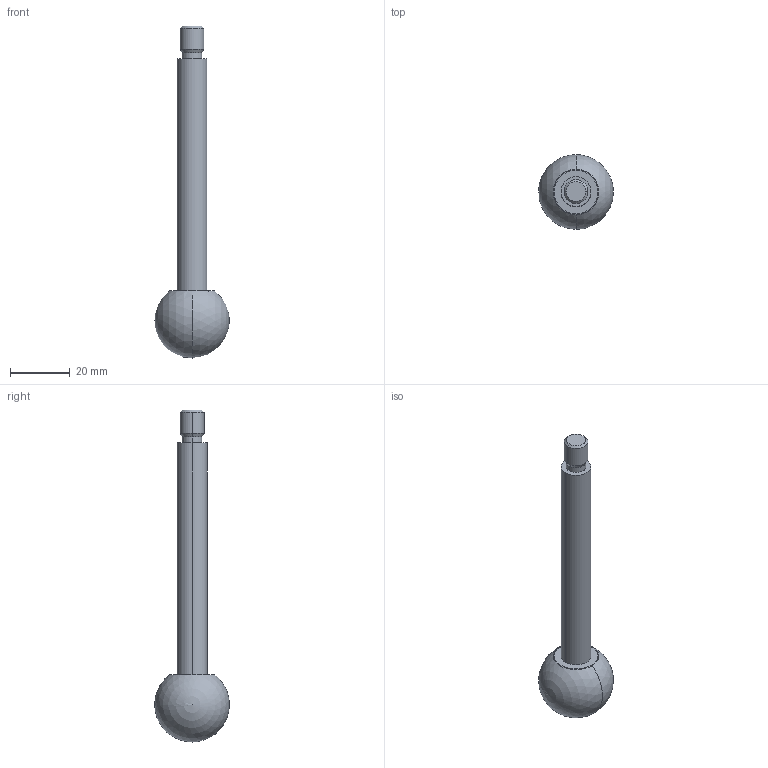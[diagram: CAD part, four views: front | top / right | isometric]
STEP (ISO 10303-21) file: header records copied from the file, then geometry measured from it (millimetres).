
FILE_DESCRIPTION (( 'STEP AP214' ), '1' );
FILE_NAME ('310-10-100-A-ZB.step', '2023-08-07T10:01:33', ( '' ), ( '' ), 'SwSTEP 2.0', 'SolidWorks 2022', '' );
FILE_SCHEMA (( 'AUTOMOTIVE_DESIGN' ));
Length unit declared in the file: millimetre
Products named in the file (1): 310-10-100-A-ZB
Bounding box: 25 x 24.96 x 111 mm (x, y, z)
Volume: 14544 mm3; surface area: 4652.5 mm2
Topology: 1 solids, 1 shells, 17 faces, 39 edges, 24 vertices
Faces by surface type: cylinder 6, cone 4, plane 3, torus 2, sphere 2
Entity records: 541 total; most frequent: DIRECTION 94, CARTESIAN_POINT 73, ORIENTED_EDGE 68, AXIS2_PLACEMENT_3D 42, EDGE_CURVE 34, CIRCLE 24, VERTEX_POINT 21, EDGE_LOOP 19
